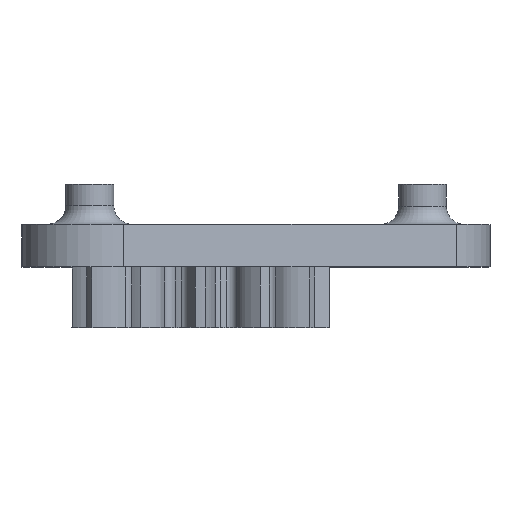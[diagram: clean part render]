
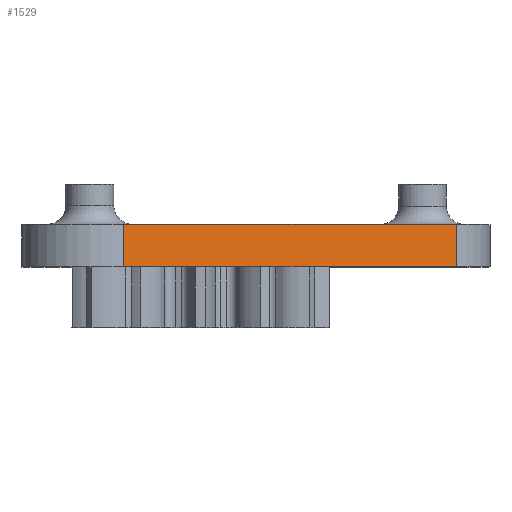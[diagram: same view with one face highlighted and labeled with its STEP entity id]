
A CAD part, top view. The second image highlights one B-rep face of the part: STEP entity #1529.
In plain terms, the highlighted planar face has unit normal (0.501, 0, 0.866).
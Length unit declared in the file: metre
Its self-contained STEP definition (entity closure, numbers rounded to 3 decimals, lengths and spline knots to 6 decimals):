
#141=LINE('',#2248,#225);
#144=LINE('',#3869,#228);
#151=LINE('',#3886,#235);
#152=LINE('',#3888,#236);
#225=VECTOR('',#1809,1.);
#228=VECTOR('',#1916,1.);
#235=VECTOR('',#1935,1.);
#236=VECTOR('',#1938,1.);
#407=ORIENTED_EDGE('',*,*,#884,.T.);
#408=ORIENTED_EDGE('',*,*,#883,.F.);
#409=ORIENTED_EDGE('',*,*,#796,.F.);
#410=ORIENTED_EDGE('',*,*,#874,.T.);
#796=EDGE_CURVE('',#1039,#1040,#141,.T.);
#874=EDGE_CURVE('',#1039,#1117,#144,.T.);
#883=EDGE_CURVE('',#1040,#1121,#151,.T.);
#884=EDGE_CURVE('',#1117,#1121,#152,.T.);
#1039=VERTEX_POINT('',#2247);
#1040=VERTEX_POINT('',#2249);
#1117=VERTEX_POINT('',#3868);
#1121=VERTEX_POINT('',#3885);
#1321=EDGE_LOOP('',(#407,#408,#409,#410));
#1421=FACE_BOUND('',#1321,.T.);
#1517=PLANE('',#1686);
#1529=ADVANCED_FACE('',(#1421),#1517,.T.);
#1686=AXIS2_PLACEMENT_3D('',#3887,#1936,#1937);
#1809=DIRECTION('',(-0.866,0.,0.501));
#1916=DIRECTION('',(0.,1.,0.));
#1935=DIRECTION('',(0.,1.,0.));
#1936=DIRECTION('',(0.501,0.,0.866));
#1937=DIRECTION('',(0.866,0.,-0.501));
#1938=DIRECTION('',(-0.866,0.,0.501));
#2247=CARTESIAN_POINT('',(0.042149,-0.021,0.009631));
#2248=CARTESIAN_POINT('',(0.014733,-0.021,0.025496));
#2249=CARTESIAN_POINT('',(-0.012683,-0.021,0.041361));
#3868=CARTESIAN_POINT('',(0.042149,-0.014,0.009631));
#3869=CARTESIAN_POINT('',(0.042149,-0.021,0.009631));
#3885=CARTESIAN_POINT('',(-0.012683,-0.014,0.041361));
#3886=CARTESIAN_POINT('',(-0.012683,-0.021,0.041361));
#3887=CARTESIAN_POINT('',(0.014733,-0.021,0.025496));
#3888=CARTESIAN_POINT('',(0.014733,-0.014,0.025496));
